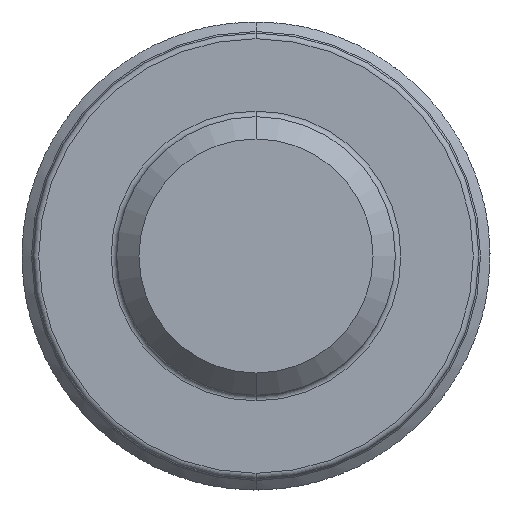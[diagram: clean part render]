
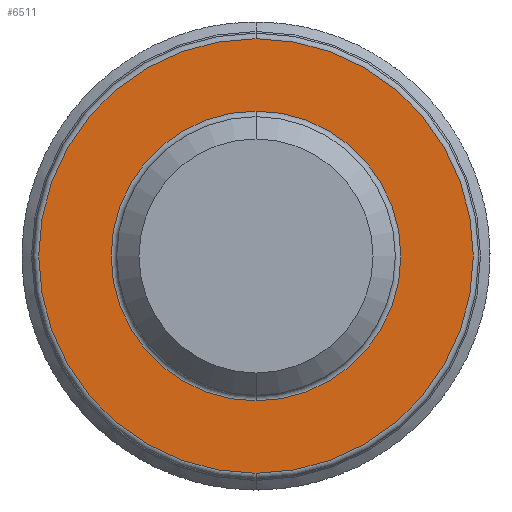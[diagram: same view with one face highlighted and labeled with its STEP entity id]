
A CAD part, front view. The second image highlights one B-rep face of the part: STEP entity #6511.
In plain terms, the highlighted planar face has unit normal (0, -1, 0).
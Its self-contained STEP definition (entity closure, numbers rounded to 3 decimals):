
#57 = AXIS2_PLACEMENT_3D ( 'NONE', #1646, #456, #4228 ) ;
#58 = VERTEX_POINT ( 'NONE', #2565 ) ;
#244 = ORIENTED_EDGE ( 'NONE', *, *, #8057, .T. ) ;
#330 = FACE_BOUND ( 'NONE', #2466, .T. ) ;
#456 = DIRECTION ( 'NONE',  ( 0., -1., 0. ) ) ;
#707 = AXIS2_PLACEMENT_3D ( 'NONE', #7114, #1304, #8132 ) ;
#910 = DIRECTION ( 'NONE',  ( 0., 1., 0. ) ) ;
#1304 = DIRECTION ( 'NONE',  ( 0., 1., 0. ) ) ;
#1395 = EDGE_CURVE ( 'NONE', #6161, #5242, #4662, .T. ) ;
#1436 = ORIENTED_EDGE ( 'NONE', *, *, #2893, .T. ) ;
#1646 = CARTESIAN_POINT ( 'NONE',  ( 0., -5., 0. ) ) ;
#1681 = AXIS2_PLACEMENT_3D ( 'NONE', #6628, #910, #4172 ) ;
#1917 = ORIENTED_EDGE ( 'NONE', *, *, #1395, .T. ) ;
#2189 = VERTEX_POINT ( 'NONE', #5740 ) ;
#2289 = PLANE ( 'NONE',  #7134 ) ;
#2466 = EDGE_LOOP ( 'NONE', ( #1436, #6997 ) ) ;
#2565 = CARTESIAN_POINT ( 'NONE',  ( 0., -5., -2.6 ) ) ;
#2606 = AXIS2_PLACEMENT_3D ( 'NONE', #5256, #2758, #6522 ) ;
#2758 = DIRECTION ( 'NONE',  ( 0., -1., 0. ) ) ;
#2893 = EDGE_CURVE ( 'NONE', #58, #2189, #5329, .T. ) ;
#4172 = DIRECTION ( 'NONE',  ( 0., 0., -1. ) ) ;
#4228 = DIRECTION ( 'NONE',  ( 0., 0., -1. ) ) ;
#4662 = CIRCLE ( 'NONE', #57, 3.9 ) ;
#5016 = CARTESIAN_POINT ( 'NONE',  ( 0., -5., 3.9 ) ) ;
#5242 = VERTEX_POINT ( 'NONE', #5016 ) ;
#5256 = CARTESIAN_POINT ( 'NONE',  ( 0., -5., 0. ) ) ;
#5329 = CIRCLE ( 'NONE', #1681, 2.6 ) ;
#5554 = FACE_OUTER_BOUND ( 'NONE', #6001, .T. ) ;
#5589 = CIRCLE ( 'NONE', #707, 2.6 ) ;
#5740 = CARTESIAN_POINT ( 'NONE',  ( 0., -5., 2.6 ) ) ;
#6001 = EDGE_LOOP ( 'NONE', ( #1917, #244 ) ) ;
#6161 = VERTEX_POINT ( 'NONE', #8263 ) ;
#6511 = ADVANCED_FACE ( 'NONE', ( #330, #5554 ), #2289, .T. ) ;
#6522 = DIRECTION ( 'NONE',  ( 0., 0., -1. ) ) ;
#6628 = CARTESIAN_POINT ( 'NONE',  ( 0., -5., 0. ) ) ;
#6868 = DIRECTION ( 'NONE',  ( 0., -1., 0. ) ) ;
#6912 = DIRECTION ( 'NONE',  ( 0., 0., -1. ) ) ;
#6997 = ORIENTED_EDGE ( 'NONE', *, *, #7695, .T. ) ;
#7114 = CARTESIAN_POINT ( 'NONE',  ( 0., -5., 0. ) ) ;
#7134 = AXIS2_PLACEMENT_3D ( 'NONE', #8164, #6868, #6912 ) ;
#7695 = EDGE_CURVE ( 'NONE', #2189, #58, #5589, .T. ) ;
#8057 = EDGE_CURVE ( 'NONE', #5242, #6161, #8139, .T. ) ;
#8132 = DIRECTION ( 'NONE',  ( 0., 0., -1. ) ) ;
#8139 = CIRCLE ( 'NONE', #2606, 3.9 ) ;
#8164 = CARTESIAN_POINT ( 'NONE',  ( 2.5, -5., 0. ) ) ;
#8263 = CARTESIAN_POINT ( 'NONE',  ( 0., -5., -3.9 ) ) ;
